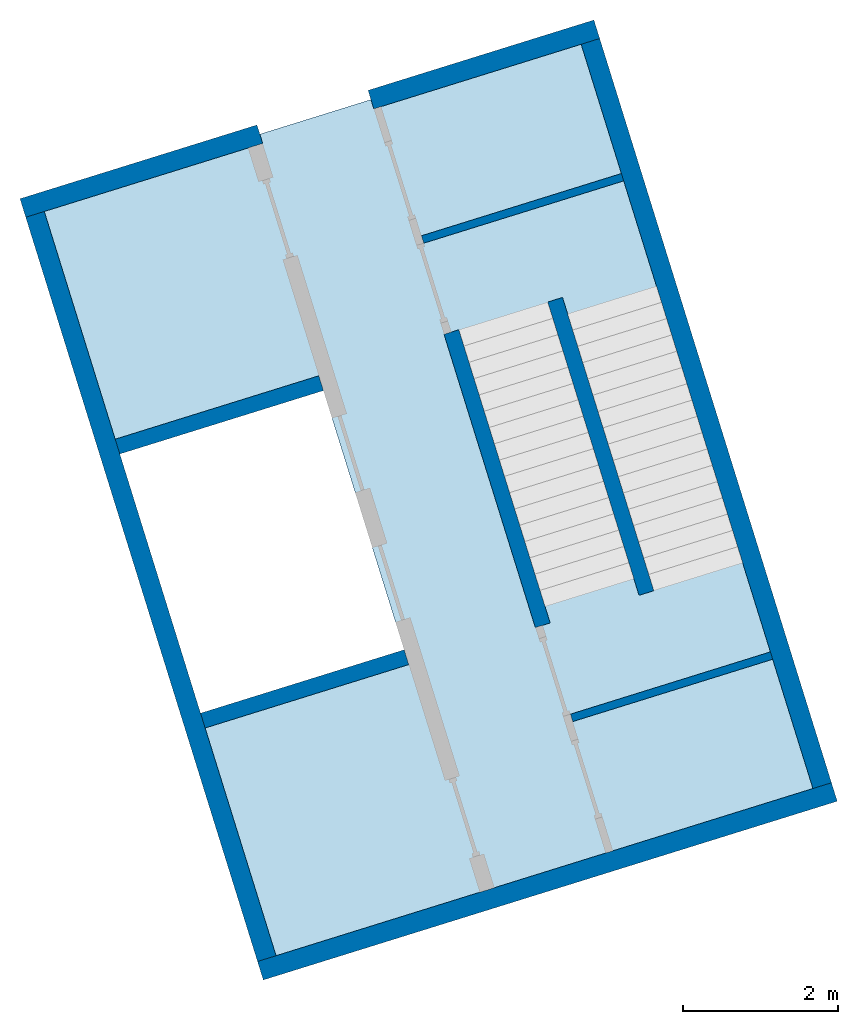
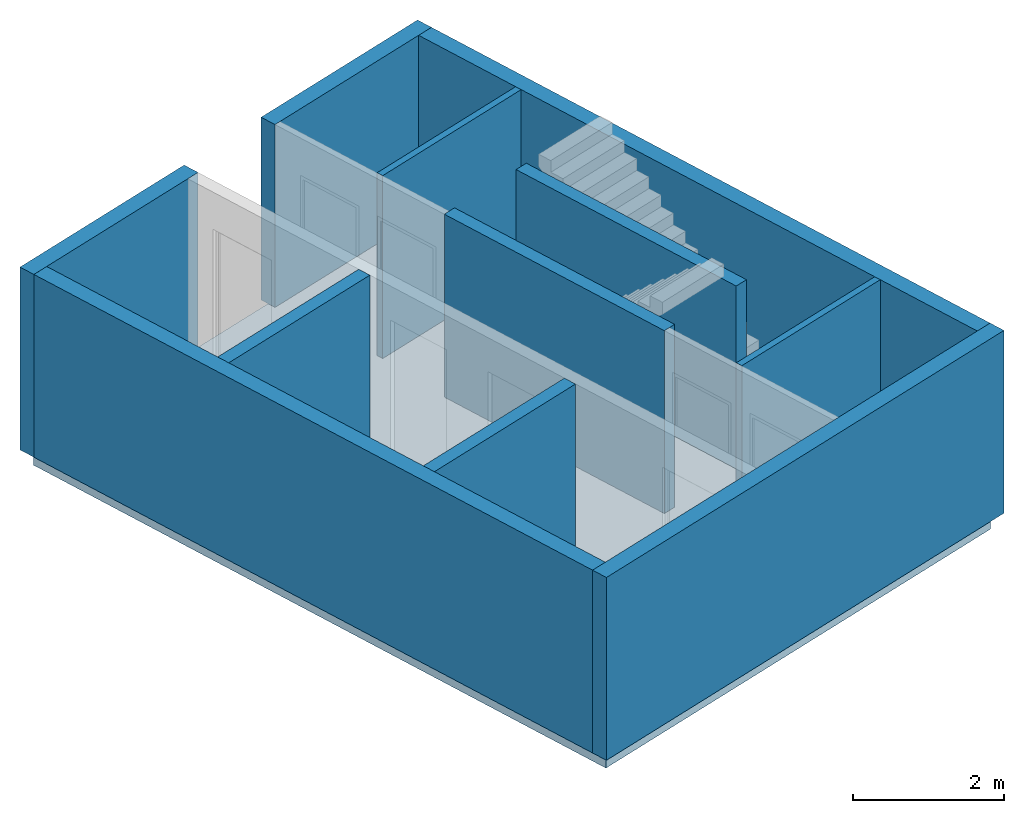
# One storey, part 1 of 3: 11 walls, 1 slab, 3 openings.
"""IFC4 building model written with IfcOpenShell, lengths in metres."""

from ifc_helpers import new_model, entity, si_unit, converted_unit, direction, frame, origin, place, context, subcontext, project, spatial, indexed_curve, outline, extrude, polygons, material, type_object, element, save


model = new_model("IFC4")

# Units and contexts
model_context = context("Model", 3, precision=1e-05, world=origin(), true_north=direction((6.12323399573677e-17, 1.0)))
body_context = subcontext(model_context, "Body", "Model", "MODEL_VIEW")
ifc_project = project(units=[si_unit("LENGTHUNIT", "METRE"), si_unit("AREAUNIT", "SQUARE_METRE"), si_unit("VOLUMEUNIT", "CUBIC_METRE"), converted_unit("PLANEANGLEUNIT", "DEGREE", entity("IfcPlaneAngleMeasure", 0.0174532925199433), si_unit("PLANEANGLEUNIT", "RADIAN"), dimensions=[0, 0, 0, 0, 0, 0, 0])], contexts=[model_context])

# Site, building, storey
site_placement = place(None, frame((13.1347999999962, 11.9886000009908, 0.0), z_axis=(0.0, 0.0, 1.0), x_axis=(0.954770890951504, 0.297342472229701, 0.0)))
site = spatial("IfcSite", under=ifc_project, at=site_placement, Name="Schiehaven", CompositionType="ELEMENT")
building_placement = place(site_placement, origin())
building = spatial("IfcBuilding", under=site, at=building_placement, Name="VORM huis", CompositionType="ELEMENT")
storey_placement = place(building_placement, frame((0.0, 0.0, -3.2)))
storey = spatial("IfcBuildingStorey", under=building, at=storey_placement, Name="-1 kelder", CompositionType="ELEMENT", Elevation=-3.2)

# Slab, opening
ifc_material_1 = material(Name="beton_gewapend_ihw", Category="Miscellaneous")
slab_type = type_object("IfcSlabType", Name="Floor:13_FL_funderingvloer 250mm", PredefinedType="FLOOR", material=ifc_material_1)
slab_placement = place(storey_placement, origin())
slab = element("IfcSlab", 1, at=slab_placement, inside=storey, type_object=slab_type, material=ifc_material_1, Name="Funderingvloer", ObjectType="Vloer", PredefinedType="FLOOR", context=body_context, shape_type="SweptSolid", body=[
    extrude(outline(indexed_curve([(-3.74999999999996, -5.15000000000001), (3.74999999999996, -5.15000000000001), (3.74999999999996, 5.15000000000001), (-3.74999999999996, 5.15000000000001), (-3.74999999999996, -5.15000000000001)], self_intersect=False), holes=[indexed_curve([(3.62499999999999, -1.75000000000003), (0.87499999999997, -1.75000000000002), (0.874999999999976, 1.74999999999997), (3.625, 1.74999999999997), (3.62499999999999, -1.75000000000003)], self_intersect=False)]), frame((16.2500000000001, 17.05, -0.25), z_axis=(0.0, 0.0, 1.0), x_axis=(-1.0, 0.0, 0.0)), (0.0, 0.0, 1.0), 0.25),
])
opening_1_placement = place(slab_placement, origin())
element("IfcOpeningElement", 2, at=opening_1_placement, cuts=slab, Name="Funderingvloer", PredefinedType="OPENING", context=body_context, shape_type="SweptSolid", body=[
    extrude(outline(indexed_curve([(-1.74999999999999, -1.37500000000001), (1.75, -1.37500000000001), (1.75, 1.37500000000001), (-1.75, 1.37500000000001), (-1.74999999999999, -1.37500000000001)], self_intersect=False)), frame((14.0, 17.05, -0.25), z_axis=(0.0, 0.0, 1.0), x_axis=(0.0, -1.0, 0.0)), (0.0, 0.0, 1.0), 0.25),
])

# Walls
wall_type_1 = type_object("IfcWallType", Name="Basic Wall:28_WA_skelet_wand 250mm_gen", PredefinedType="STANDARD")
wall_1_placement = place(storey_placement, frame((20.1250000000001, 22.2, 0.0), z_axis=(0.0, 0.0, 1.0), x_axis=(-1.0, 0.0, 0.0)))
element("IfcWall", 3, at=wall_1_placement, inside=storey, type_object=wall_type_1, material=ifc_material_1, Name="Constructieve wand", ObjectType="Wand", PredefinedType="NOTDEFINED", context=body_context, shape_type="SweptSolid", body=[
    extrude(outline(indexed_curve([(3.05000000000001, 0.125000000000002), (1.85105492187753e-16, 0.125000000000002), (-1.85105492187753e-16, -0.125000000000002), (3.05000000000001, -0.125000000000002), (3.05000000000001, 0.125000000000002)], self_intersect=False)), origin(), (0.0, 0.0, 1.0), 2.95),
])
wall_2_placement = place(storey_placement, frame((20.125, 11.9, 0.0), z_axis=(0.0, 0.0, 1.0), x_axis=(-1.0, 0.0, 0.0)))
element("IfcWall", 4, at=wall_2_placement, inside=storey, type_object=wall_type_1, material=ifc_material_1, Name="Constructieve wand", ObjectType="Wand", PredefinedType="NOTDEFINED", context=body_context, shape_type="SweptSolid", body=[
    extrude(outline(indexed_curve([(7.74999999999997, 0.125000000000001), (-9.5853859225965e-16, 0.125), (9.5853859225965e-16, -0.125), (7.74999999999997, -0.124999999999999), (7.74999999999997, 0.125000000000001)], self_intersect=False)), origin(), (0.0, 0.0, 1.0), 2.95),
])
wall_3_placement = place(storey_placement, frame((15.5750000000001, 22.2, 0.0), z_axis=(0.0, 0.0, 1.0), x_axis=(-1.0, 0.0, 0.0)))
element("IfcWall", 5, at=wall_3_placement, inside=storey, type_object=wall_type_1, material=ifc_material_1, Name="Constructieve wand", ObjectType="Wand", PredefinedType="NOTDEFINED", context=body_context, shape_type="SweptSolid", body=[
    extrude(outline(indexed_curve([(3.2, 0.125000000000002), (0.0, 0.125000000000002), (0.0, -0.125000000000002), (3.2, -0.125000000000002), (3.2, 0.125000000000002)], self_intersect=False)), origin(), (0.0, 0.0, 1.0), 2.95),
])
wall_4_placement = place(storey_placement, frame((12.5, 12.0250000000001, 0.0), z_axis=(0.0, 0.0, 1.0), x_axis=(0.0, 1.0, 0.0)))
element("IfcWall", 6, at=wall_4_placement, inside=storey, type_object=wall_type_1, material=ifc_material_1, Name="Constructieve wand", ObjectType="Wand", PredefinedType="NOTDEFINED", context=body_context, shape_type="SweptSolid", body=[
    extrude(outline(indexed_curve([(10.0499999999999, 0.124999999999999), (-6.61129288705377e-16, 0.125), (-1.50460496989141e-15, -0.125), (10.0499999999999, -0.125000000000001), (10.0499999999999, 0.124999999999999)], self_intersect=False)), origin(), (0.0, 0.0, 1.0), 2.95),
])
wall_5_placement = place(storey_placement, frame((20.0, 22.075, 0.0), z_axis=(0.0, 0.0, 1.0), x_axis=(0.0, -1.0, 0.0)))
element("IfcWall", 7, at=wall_5_placement, inside=storey, type_object=wall_type_1, material=ifc_material_1, Name="Constructieve wand", ObjectType="Wand", PredefinedType="NOTDEFINED", context=body_context, shape_type="SweptSolid", body=[
    extrude(outline(indexed_curve([(10.05, 0.125000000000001), (-1.06511520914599e-15, 0.125000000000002), (1.06511520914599e-15, -0.125000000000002), (10.05, -0.125000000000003), (10.05, 0.125000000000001)], self_intersect=False)), origin(), (0.0, 0.0, 1.0), 2.95),
])
ifc_material_2 = material(Name="beton_gewapend_prefab-element", Category="Miscellaneous")
wall_type_2 = type_object("IfcWallType", Name="Basic Wall:28_WA_skelet_wand 200mm_gen", PredefinedType="STANDARD")
wall_6_placement = place(storey_placement, frame((12.6250000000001, 15.2, 0.0)))
element("IfcWall", 8, at=wall_6_placement, inside=storey, type_object=wall_type_2, material=ifc_material_2, Name="Constructieve wand", ObjectType="Wand", PredefinedType="NOTDEFINED", context=body_context, shape_type="SweptSolid", body=[
    extrude(outline(indexed_curve([(2.75, 0.100000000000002), (-3.51397851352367e-16, 0.100000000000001), (3.51397851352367e-16, -0.100000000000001), (2.75, -0.1), (2.75, 0.100000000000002)], self_intersect=False)), origin(), (0.0, 0.0, 1.0), 2.95),
])
wall_7_placement = place(storey_placement, frame((15.3750000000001, 18.9, 0.0), z_axis=(0.0, 0.0, 1.0), x_axis=(-1.0, 0.0, 0.0)))
element("IfcWall", 9, at=wall_7_placement, inside=storey, type_object=wall_type_2, material=ifc_material_2, Name="Constructieve wand", ObjectType="Wand", PredefinedType="NOTDEFINED", context=body_context, shape_type="SweptSolid", body=[
    extrude(outline(indexed_curve([(2.75, 0.100000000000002), (-2.05391259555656e-16, 0.100000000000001), (2.05391259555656e-16, -0.100000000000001), (2.75, -0.0999999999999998), (2.75, 0.100000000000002)], self_intersect=False)), origin(), (0.0, 0.0, 1.0), 2.95),
])
wall_8_placement = place(storey_placement, frame((17.1750000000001, 15.07, 0.0), z_axis=(0.0, 0.0, 1.0), x_axis=(0.0, 1.0, 0.0)))
element("IfcWall", 10, at=wall_8_placement, inside=storey, type_object=wall_type_2, material=ifc_material_2, Name="Constructieve wand", ObjectType="Wand", PredefinedType="NOTDEFINED", context=body_context, shape_type="SweptSolid", body=[
    extrude(outline(indexed_curve([(3.95999999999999, 0.100000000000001), (-6.01592849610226e-16, 0.100000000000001), (6.01592849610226e-16, -0.100000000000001), (3.95999999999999, -0.100000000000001), (3.95999999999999, 0.100000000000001)], self_intersect=False)), origin(), (0.0, 0.0, 1.0), 2.95),
])
wall_9_placement = place(storey_placement, frame((18.5750000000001, 15.07, 0.0), z_axis=(0.0, 0.0, 1.0), x_axis=(0.0, 1.0, 0.0)))
element("IfcWall", 11, at=wall_9_placement, inside=storey, type_object=wall_type_2, material=ifc_material_2, Name="Constructieve wand", ObjectType="Wand", PredefinedType="NOTDEFINED", context=body_context, shape_type="SweptSolid", body=[
    extrude(outline(indexed_curve([(3.95999999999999, 0.0999999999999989), (-6.56283108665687e-16, 0.0999999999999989), (6.56283108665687e-16, -0.0999999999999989), (3.95999999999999, -0.0999999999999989), (3.95999999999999, 0.0999999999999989)], self_intersect=False)), origin(), (0.0, 0.0, 1.0), 2.95),
])

# Wall, opening
ifc_material_3 = material(Name="ntb_ntb_ntb", Category="Miscellaneous")
wall_type_3 = type_object("IfcWallType", Name="Basic Wall:22_WA_afbouw_binnenwand 100mm_gen", PredefinedType="STANDARD")
wall_10_placement = place(storey_placement, frame((19.8750000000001, 20.28, 0.0), z_axis=(0.0, 0.0, 1.0), x_axis=(-1.0, 0.0, 0.0)))
wall_10 = element("IfcWall", 12, at=wall_10_placement, inside=storey, type_object=wall_type_3, material=ifc_material_3, Name="Binnenwand", ObjectType="Wand", PredefinedType="NOTDEFINED", context=body_context, shape_type="Tessellation", body=[
    polygons([(-1.54770749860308e-15, -0.0499999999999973, 0.0), (2.70000000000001, -0.0499999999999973, 0.0), (2.70000000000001, -0.0499999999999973, 2.95), (-1.54770749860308e-15, -0.0499999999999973, 2.95), (-1.94490471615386e-15, 0.0500000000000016, 0.0), (-1.94490471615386e-15, 0.0500000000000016, 2.95), (2.70000000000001, 0.0500000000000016, 2.95), (2.70000000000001, 0.0500000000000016, 2.34999999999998), (2.70000000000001, 0.0500000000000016, 0.0)], [[[1, 2, 3, 4]], [[5, 6, 7, 8, 9]], [[2, 1, 5, 9]], [[4, 3, 7, 6]], [[1, 4, 6, 5]], [[3, 2, 9, 8, 7]]], closed=True),
])
opening_2_placement = place(wall_10_placement, origin())
element("IfcOpeningElement", 13, at=opening_2_placement, cuts=wall_10, Name="Vluchtdeur", PredefinedType="OPENING", context=body_context, shape_type="SweptSolid", body=[
    extrude(outline(indexed_curve([(-0.0499999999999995, -1.17499999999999), (0.0500000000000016, -1.17499999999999), (0.0500000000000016, 1.17499999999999), (-0.0499999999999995, 1.17499999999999), (-0.0499999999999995, -1.17499999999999)], self_intersect=False)), frame((2.75000000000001, 0.0499999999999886, 1.17499999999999), z_axis=(0.0, 1.0, 0.0), x_axis=(1.0, 0.0, 0.0)), (0.0, 0.0, 1.0), 1.05),
])

wall_11_placement = place(storey_placement, frame((19.8750000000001, 13.82, 0.0), z_axis=(0.0, 0.0, 1.0), x_axis=(-1.0, 0.0, 0.0)))
wall_11 = element("IfcWall", 14, at=wall_11_placement, inside=storey, type_object=wall_type_3, material=ifc_material_3, Name="Binnenwand", ObjectType="Wand", PredefinedType="NOTDEFINED", context=body_context, shape_type="Tessellation", body=[
    polygons([(1.8842813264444e-15, -0.0500000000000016, 0.0), (2.70000000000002, -0.0500000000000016, 0.0), (2.70000000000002, -0.0500000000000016, 2.34999999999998), (2.70000000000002, -0.0500000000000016, 2.95), (1.8842813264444e-15, -0.0500000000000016, 2.95), (1.87069602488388e-15, 0.0499999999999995, 0.0), (1.87069602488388e-15, 0.0499999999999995, 2.95), (2.70000000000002, 0.0499999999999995, 2.95), (2.70000000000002, 0.0499999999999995, 0.0)], [[[1, 2, 3, 4, 5]], [[6, 7, 8, 9]], [[2, 1, 6, 9]], [[5, 4, 8, 7]], [[1, 5, 7, 6]], [[4, 3, 2, 9, 8]]], closed=True),
])
opening_3_placement = place(wall_11_placement, origin())
element("IfcOpeningElement", 15, at=opening_3_placement, cuts=wall_11, Name="Vluchtdeur", PredefinedType="OPENING", context=body_context, shape_type="SweptSolid", body=[
    extrude(outline(indexed_curve([(-0.0499999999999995, -1.17499999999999), (0.0499999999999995, -1.17499999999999), (0.0499999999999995, 1.17499999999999), (-0.0499999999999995, 1.17499999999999), (-0.0499999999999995, -1.17499999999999)], self_intersect=False)), frame((2.75000000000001, -1.1, 1.17499999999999), z_axis=(0.0, 1.0, 0.0), x_axis=(1.0, 0.0, 0.0)), (0.0, 0.0, 1.0), 1.05),
])

save(model, "model.ifc")
